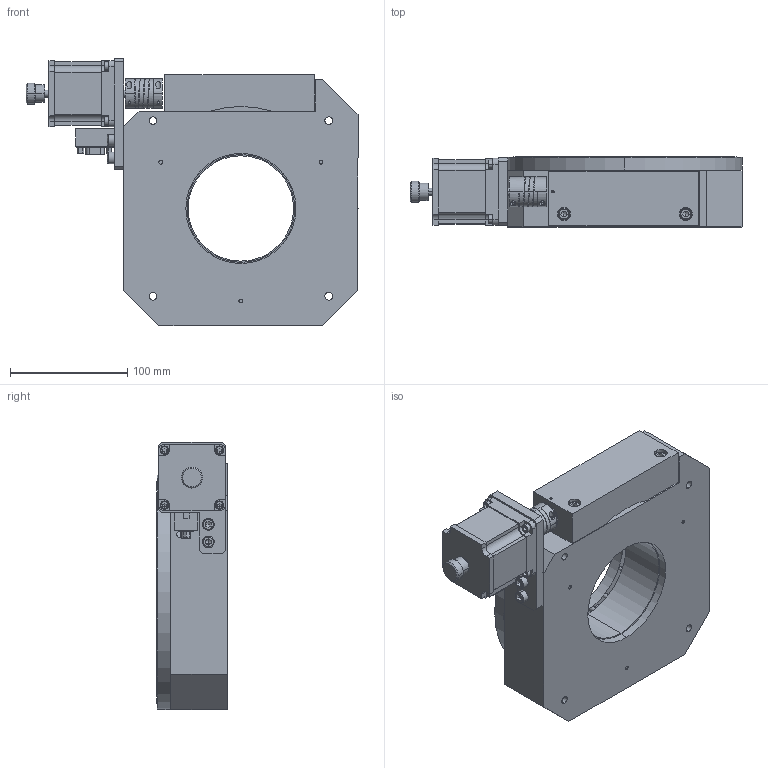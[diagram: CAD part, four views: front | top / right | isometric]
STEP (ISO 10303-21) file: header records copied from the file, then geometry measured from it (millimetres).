
FILE_DESCRIPTION (( 'STEP AP203' ), '1' );
FILE_NAME ('MOR-200-90.STEP', '2013-11-04T09:42:00', ( '' ), ( '' ), 'SwSTEP 2.0', 'SolidWorks 2010', '' );
FILE_SCHEMA (( 'CONFIG_CONTROL_DESIGN' ));
Length unit declared in the file: millimetre
Products named in the file (1): MOR-200-90
Bounding box: 283.5 x 60 x 228.1 mm (x, y, z)
Surface area: 211560.5 mm2 (no closed solid volume)
Topology: 0 solids, 53 shells, 566 faces, 1732 edges, 1199 vertices
Faces by surface type: cylinder 255, plane 249, cone 32, bspline 30
Entity records: 27212 total; most frequent: CARTESIAN_POINT 11971, DIRECTION 3075, ORIENTED_EDGE 2907, EDGE_CURVE 1706, VERTEX_POINT 1197, AXIS2_PLACEMENT_3D 1085, LINE 905, VECTOR 905
